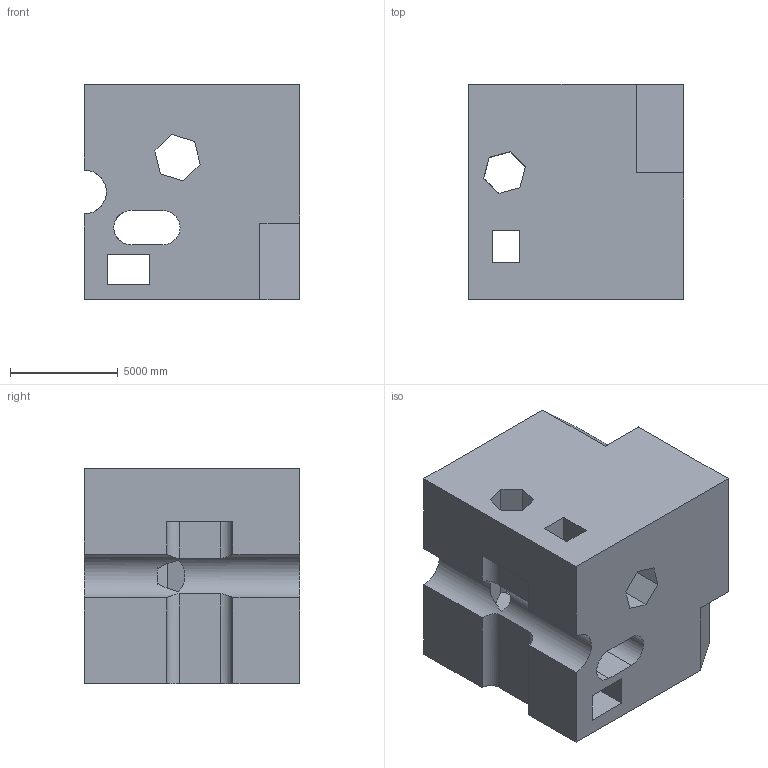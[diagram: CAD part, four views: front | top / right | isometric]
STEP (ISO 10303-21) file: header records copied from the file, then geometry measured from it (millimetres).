
FILE_DESCRIPTION (( 'STEP AP203' ), '1' );
FILE_NAME ('993.STEP', '2022-07-29T15:02:44', ( 'user' ), ( '' ), 'SwSTEP 2.0', 'SolidWorks 2021', '' );
FILE_SCHEMA (( 'CONFIG_CONTROL_DESIGN' ));
Length unit declared in the file: centimetre
Products named in the file (1): 993
Bounding box: 10000 x 10000 x 10000 mm (x, y, z)
Volume: 818674464587.2 mm3; surface area: 856936738.7 mm2
Topology: 1 solids, 1 shells, 67 faces, 222 edges, 148 vertices
Faces by surface type: plane 58, cylinder 9
Entity records: 2719 total; most frequent: CARTESIAN_POINT 688, ORIENTED_EDGE 444, DIRECTION 358, EDGE_CURVE 222, VECTOR 194, LINE 194, VERTEX_POINT 148, AXIS2_PLACEMENT_3D 82
